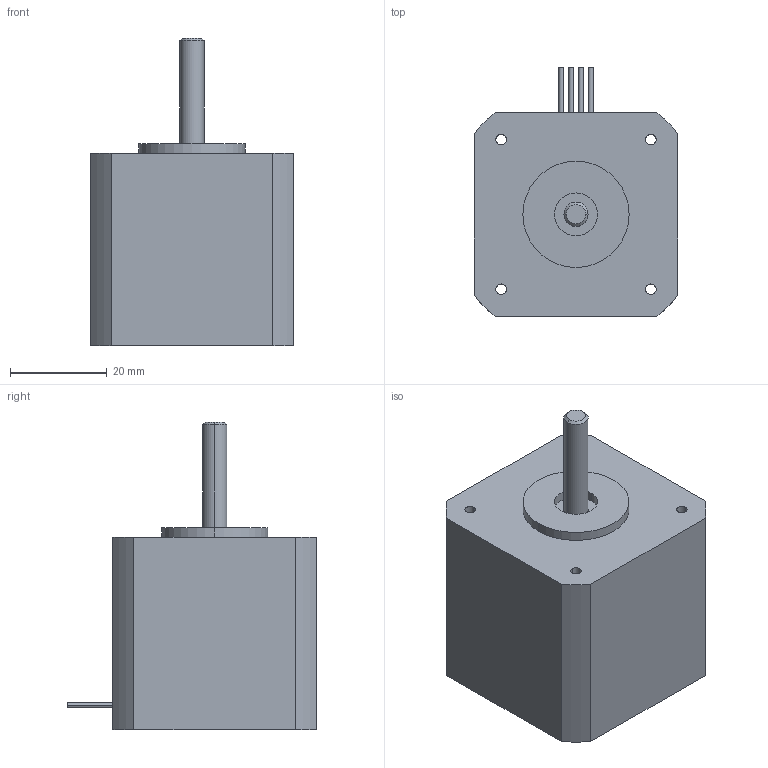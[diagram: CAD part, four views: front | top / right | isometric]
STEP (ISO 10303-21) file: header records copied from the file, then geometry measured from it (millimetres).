
FILE_DESCRIPTION((''),'2;1');
FILE_NAME('C:\Documents and Settings\rbadgerow\Desktop\webmodelmain\web step 3d\4118m\4118m s.stp','2005-05-12T07:25:47',('rbadgerow'),(''),'Autodesk Inventor 9','Autodesk Inventor 9','');
FILE_SCHEMA(('AUTOMOTIVE_DESIGN { 1 0 10303 214 1 1 1 1 }'));
Length unit declared in the file: inch
Products named in the file (1): 4118m s
Bounding box: 42.16 x 51.56 x 63.75 mm (x, y, z)
Volume: 70032 mm3; surface area: 11565.2 mm2
Topology: 1 solids, 1 shells, 44 faces, 100 edges, 66 vertices
Faces by surface type: cylinder 28, plane 14, cone 2
Entity records: 1307 total; most frequent: DIRECTION 248, CARTESIAN_POINT 211, ORIENTED_EDGE 200, AXIS2_PLACEMENT_3D 103, EDGE_CURVE 100, VERTEX_POINT 66, EDGE_LOOP 60, CIRCLE 58
